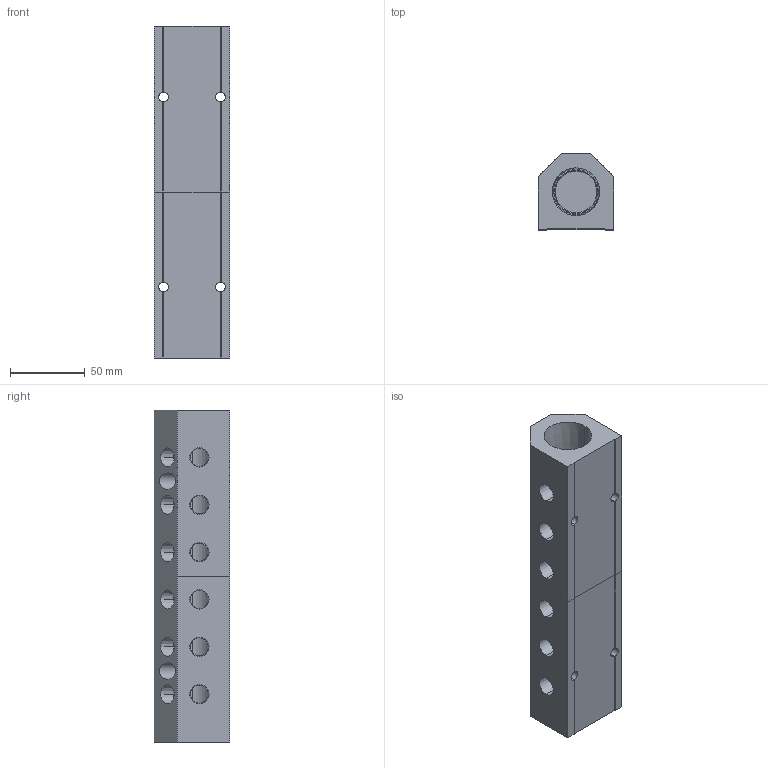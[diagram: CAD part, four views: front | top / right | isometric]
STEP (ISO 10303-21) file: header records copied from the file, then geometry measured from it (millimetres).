
FILE_DESCRIPTION (( 'STEP AP214' ), '1' );
FILE_NAME ('ALM6AB-N4N16-222RB.STEP', '2023-11-02T06:11:38', ( '' ), ( '' ), 'SwSTEP 2.0', 'SolidWorks 2020', '' );
FILE_SCHEMA (( 'AUTOMOTIVE_DESIGN' ));
Length unit declared in the file: millimetre
Products named in the file (1): ALM6AB-N4N16-222RB
Bounding box: 50.8 x 50.8 x 222 mm (x, y, z)
Volume: 348034.8 mm3; surface area: 76418.1 mm2
Topology: 2 solids, 2 shells, 360 faces, 956 edges, 632 vertices
Faces by surface type: plane 241, bspline 63, cone 32, cylinder 24
Entity records: 19325 total; most frequent: CARTESIAN_POINT 7444, ORIENTED_EDGE 1912, DIRECTION 1446, EDGE_CURVE 956, LINE 706, VECTOR 706, VERTEX_POINT 632, EDGE_LOOP 424
